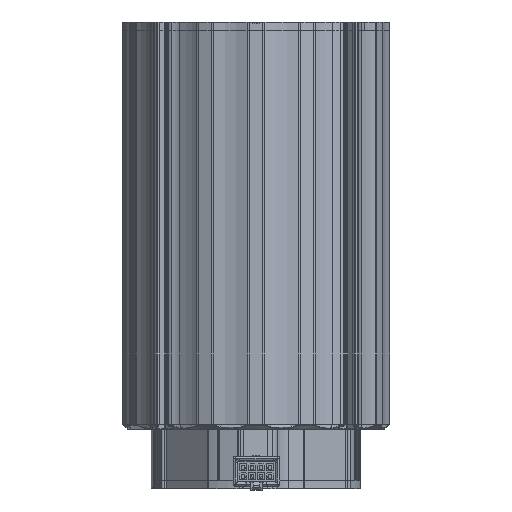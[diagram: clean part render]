
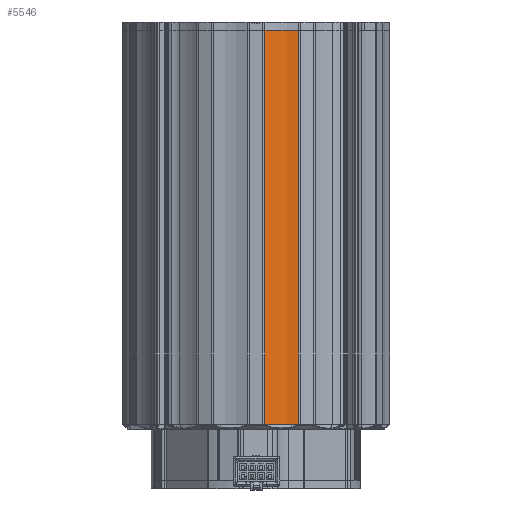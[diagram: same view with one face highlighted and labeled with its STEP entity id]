
A CAD part, front view. The second image highlights one B-rep face of the part: STEP entity #5546.
In plain terms, the highlighted cylindrical face has radius 33.332 mm (diameter 66.665 mm), a partial arc.
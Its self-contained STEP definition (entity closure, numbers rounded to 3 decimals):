
#5546 = ADVANCED_FACE ( 'NONE', ( #107932 ), #51526, .F. ) ;
#8156 = CARTESIAN_POINT ( 'NONE',  ( -49.874, -38.381, 0. ) ) ;
#10496 = DIRECTION ( 'NONE',  ( 0., -1., 0. ) ) ;
#10511 = AXIS2_PLACEMENT_3D ( 'NONE', #19512, #33000, #10496 ) ;
#11202 = CARTESIAN_POINT ( 'NONE',  ( -66.986, -66.986, 0. ) ) ;
#14224 = VECTOR ( 'NONE', #99264, 1000. ) ;
#16033 = VECTOR ( 'NONE', #31645, 1000. ) ;
#19512 = CARTESIAN_POINT ( 'NONE',  ( -66.986, -66.986, -185.5 ) ) ;
#25140 = DIRECTION ( 'NONE',  ( 0., 0., -1. ) ) ;
#31645 = DIRECTION ( 'NONE',  ( 0., 0., -1. ) ) ;
#33000 = DIRECTION ( 'NONE',  ( 0., 0., 1. ) ) ;
#42050 = ORIENTED_EDGE ( 'NONE', *, *, #117877, .F. ) ;
#45058 = DIRECTION ( 'NONE',  ( 0., -1., 0. ) ) ;
#49217 = CARTESIAN_POINT ( 'NONE',  ( -38.381, -49.874, 0. ) ) ;
#51311 = VERTEX_POINT ( 'NONE', #120350 ) ;
#51526 = CYLINDRICAL_SURFACE ( 'NONE', #64152, 33.332 ) ;
#52846 = CARTESIAN_POINT ( 'NONE',  ( -38.381, -49.874, 0. ) ) ;
#53733 = ORIENTED_EDGE ( 'NONE', *, *, #102936, .T. ) ;
#54292 = EDGE_CURVE ( 'NONE', #133767, #51311, #77456, .T. ) ;
#64152 = AXIS2_PLACEMENT_3D ( 'NONE', #106473, #25140, #71182 ) ;
#69790 = CARTESIAN_POINT ( 'NONE',  ( -38.381, -49.874, -185.5 ) ) ;
#71012 = ORIENTED_EDGE ( 'NONE', *, *, #54292, .T. ) ;
#71182 = DIRECTION ( 'NONE',  ( -1., 0., 0. ) ) ;
#77456 = LINE ( 'NONE', #8156, #14224 ) ;
#78872 = AXIS2_PLACEMENT_3D ( 'NONE', #11202, #80488, #45058 ) ;
#80488 = DIRECTION ( 'NONE',  ( 0., 0., 1. ) ) ;
#98759 = CARTESIAN_POINT ( 'NONE',  ( -49.874, -38.381, 0. ) ) ;
#99264 = DIRECTION ( 'NONE',  ( 0., 0., -1. ) ) ;
#102936 = EDGE_CURVE ( 'NONE', #140471, #133767, #133970, .T. ) ;
#106473 = CARTESIAN_POINT ( 'NONE',  ( -66.986, -66.986, 0. ) ) ;
#107932 = FACE_OUTER_BOUND ( 'NONE', #139437, .T. ) ;
#107993 = VERTEX_POINT ( 'NONE', #69790 ) ;
#117877 = EDGE_CURVE ( 'NONE', #140471, #107993, #134727, .T. ) ;
#120350 = CARTESIAN_POINT ( 'NONE',  ( -49.874, -38.381, -185.5 ) ) ;
#133767 = VERTEX_POINT ( 'NONE', #98759 ) ;
#133970 = CIRCLE ( 'NONE', #78872, 33.332 ) ;
#134727 = LINE ( 'NONE', #52846, #16033 ) ;
#139437 = EDGE_LOOP ( 'NONE', ( #148324, #42050, #53733, #71012 ) ) ;
#139472 = EDGE_CURVE ( 'NONE', #107993, #51311, #140211, .T. ) ;
#140211 = CIRCLE ( 'NONE', #10511, 33.332 ) ;
#140471 = VERTEX_POINT ( 'NONE', #49217 ) ;
#148324 = ORIENTED_EDGE ( 'NONE', *, *, #139472, .F. ) ;
